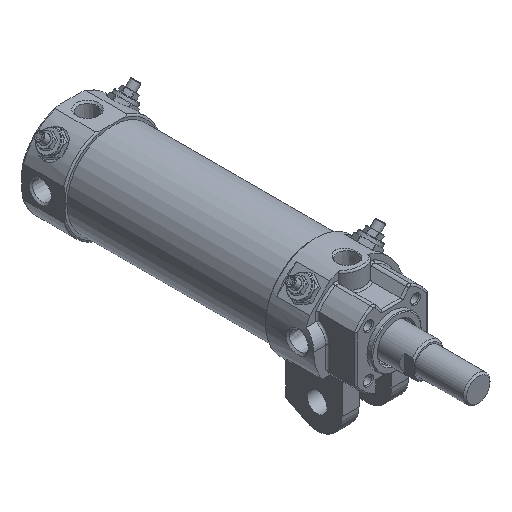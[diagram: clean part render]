
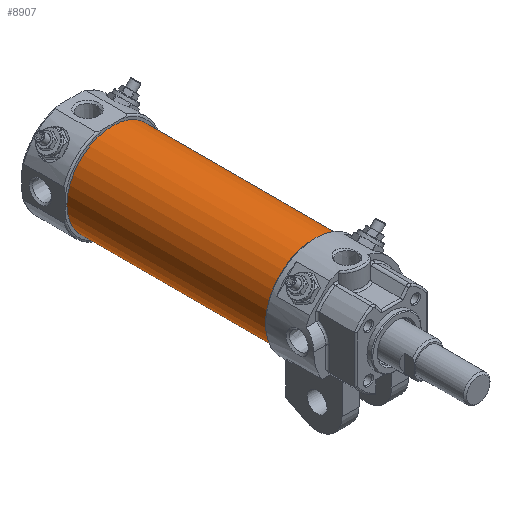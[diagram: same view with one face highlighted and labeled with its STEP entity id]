
A CAD part, isometric view. The second image highlights one B-rep face of the part: STEP entity #8907.
In plain terms, the highlighted cylindrical face has radius 27.5 mm (diameter 55 mm), a full revolution.
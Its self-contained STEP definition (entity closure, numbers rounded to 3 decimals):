
#996=CARTESIAN_POINT('',(27.5,171.0,0.));
#997=VERTEX_POINT('',#996);
#998=CARTESIAN_POINT('',(0.,171.0,0.));
#999=DIRECTION('',(0.0,-1.0,0.0));
#1000=DIRECTION('',(-1.0,0.0,0.0));
#1001=AXIS2_PLACEMENT_3D('',#998,#999,#1000);
#1002=CIRCLE('',#1001,27.5);
#1003=EDGE_CURVE('',#997,#997,#1002,.T.);
#8884=CARTESIAN_POINT('',(27.5,50.,0.));
#8885=VERTEX_POINT('',#8884);
#8886=CARTESIAN_POINT('',(0.,50.,0.));
#8887=DIRECTION('',(0.0,-1.0,0.0));
#8888=DIRECTION('',(-1.0,0.0,0.0));
#8889=AXIS2_PLACEMENT_3D('',#8886,#8887,#8888);
#8890=CIRCLE('',#8889,27.5);
#8891=EDGE_CURVE('',#8885,#8885,#8890,.T.);
#8896=CARTESIAN_POINT('',(0.,50.,0.));
#8897=DIRECTION('',(0.0,1.0,0.));
#8898=DIRECTION('',(-1.0,0.0,0.0));
#8899=AXIS2_PLACEMENT_3D('',#8896,#8897,#8898);
#8900=CYLINDRICAL_SURFACE('',#8899,27.5);
#8901=ORIENTED_EDGE('',*,*,#1003,.T.);
#8902=EDGE_LOOP('',(#8901));
#8903=FACE_OUTER_BOUND('',#8902,.T.);
#8904=ORIENTED_EDGE('',*,*,#8891,.F.);
#8905=EDGE_LOOP('',(#8904));
#8906=FACE_BOUND('',#8905,.T.);
#8907=ADVANCED_FACE('',(#8903,#8906),#8900,.T.);
